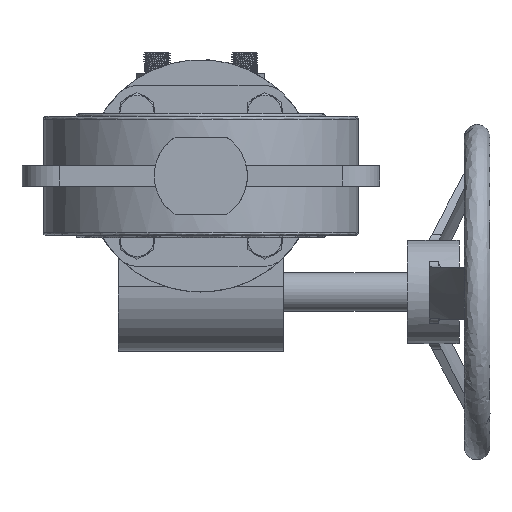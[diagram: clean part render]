
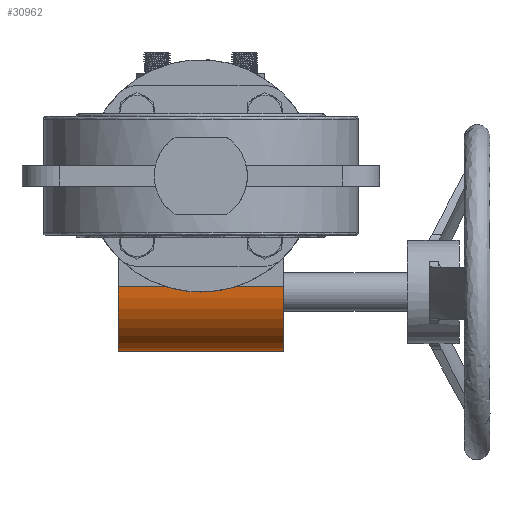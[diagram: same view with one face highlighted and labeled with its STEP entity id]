
A CAD part, front view. The second image highlights one B-rep face of the part: STEP entity #30962.
In plain terms, the highlighted cylindrical face has radius 25 mm (diameter 50 mm), a partial arc.
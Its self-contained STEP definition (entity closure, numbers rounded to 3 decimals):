
#473 = AXIS2_PLACEMENT_3D ( 'NONE', #40761, #11090, #3340 ) ;
#1107 = EDGE_CURVE ( 'NONE', #17296, #9995, #41872, .T. ) ;
#2063 = ORIENTED_EDGE ( 'NONE', *, *, #36594, .T. ) ;
#2839 = LINE ( 'NONE', #10339, #20544 ) ;
#3340 = DIRECTION ( 'NONE',  ( 0., 0., 1. ) ) ;
#3770 = EDGE_CURVE ( 'NONE', #16274, #29406, #14925, .T. ) ;
#4083 = DIRECTION ( 'NONE',  ( -1., 0., 0. ) ) ;
#4894 = DIRECTION ( 'NONE',  ( 1., 0., 0. ) ) ;
#7080 = CARTESIAN_POINT ( 'NONE',  ( -32., 183., -43. ) ) ;
#7294 = VECTOR ( 'NONE', #4894, 1000. ) ;
#7642 = DIRECTION ( 'NONE',  ( -1., 0., 0. ) ) ;
#7876 = CARTESIAN_POINT ( 'NONE',  ( 0., 183., -43. ) ) ;
#9995 = VERTEX_POINT ( 'NONE', #45353 ) ;
#10339 = CARTESIAN_POINT ( 'NONE',  ( 0., 158., -43. ) ) ;
#10661 = CARTESIAN_POINT ( 'NONE',  ( 0., 158., -43. ) ) ;
#10799 = FACE_OUTER_BOUND ( 'NONE', #16715, .T. ) ;
#11090 = DIRECTION ( 'NONE',  ( -1., 0., 0. ) ) ;
#12399 = CARTESIAN_POINT ( 'NONE',  ( 32., 183., -68. ) ) ;
#12869 = ORIENTED_EDGE ( 'NONE', *, *, #1107, .T. ) ;
#13513 = CYLINDRICAL_SURFACE ( 'NONE', #23835, 25. ) ;
#14066 = CARTESIAN_POINT ( 'NONE',  ( -32., 183., -68. ) ) ;
#14709 = DIRECTION ( 'NONE',  ( 0., 0., 1. ) ) ;
#14925 = LINE ( 'NONE', #29866, #18995 ) ;
#15497 = ORIENTED_EDGE ( 'NONE', *, *, #18931, .T. ) ;
#16274 = VERTEX_POINT ( 'NONE', #28183 ) ;
#16715 = EDGE_LOOP ( 'NONE', ( #2063, #43886, #12869, #40834, #41357, #15497 ) ) ;
#17296 = VERTEX_POINT ( 'NONE', #12399 ) ;
#17939 = CARTESIAN_POINT ( 'NONE',  ( 13.266, 158., -43. ) ) ;
#18651 = VERTEX_POINT ( 'NONE', #14066 ) ;
#18931 = EDGE_CURVE ( 'NONE', #16274, #30140, #2839, .T. ) ;
#18995 = VECTOR ( 'NONE', #22545, 1000. ) ;
#19882 = AXIS2_PLACEMENT_3D ( 'NONE', #7080, #44295, #39898 ) ;
#20544 = VECTOR ( 'NONE', #28712, 1000. ) ;
#20765 = CARTESIAN_POINT ( 'NONE',  ( 0., 183., -68. ) ) ;
#22545 = DIRECTION ( 'NONE',  ( 1., 0., 0. ) ) ;
#23323 = EDGE_CURVE ( 'NONE', #18651, #17296, #35190, .T. ) ;
#23835 = AXIS2_PLACEMENT_3D ( 'NONE', #7876, #7642, #14709 ) ;
#28183 = CARTESIAN_POINT ( 'NONE',  ( -13.266, 158., -43. ) ) ;
#28712 = DIRECTION ( 'NONE',  ( -1., 0., 0. ) ) ;
#29406 = VERTEX_POINT ( 'NONE', #17939 ) ;
#29866 = CARTESIAN_POINT ( 'NONE',  ( 0., 158., -43. ) ) ;
#30140 = VERTEX_POINT ( 'NONE', #30510 ) ;
#30510 = CARTESIAN_POINT ( 'NONE',  ( -32., 158., -43. ) ) ;
#30962 = ADVANCED_FACE ( 'NONE', ( #10799 ), #13513, .T. ) ;
#31956 = VECTOR ( 'NONE', #4083, 1000. ) ;
#35190 = LINE ( 'NONE', #20765, #7294 ) ;
#36594 = EDGE_CURVE ( 'NONE', #30140, #18651, #40999, .T. ) ;
#39898 = DIRECTION ( 'NONE',  ( 0., 0., 1. ) ) ;
#40761 = CARTESIAN_POINT ( 'NONE',  ( 32., 183., -43. ) ) ;
#40834 = ORIENTED_EDGE ( 'NONE', *, *, #45153, .T. ) ;
#40999 = CIRCLE ( 'NONE', #19882, 25. ) ;
#41357 = ORIENTED_EDGE ( 'NONE', *, *, #3770, .F. ) ;
#41872 = CIRCLE ( 'NONE', #473, 25. ) ;
#43886 = ORIENTED_EDGE ( 'NONE', *, *, #23323, .T. ) ;
#44295 = DIRECTION ( 'NONE',  ( 1., 0., 0. ) ) ;
#45153 = EDGE_CURVE ( 'NONE', #9995, #29406, #47622, .T. ) ;
#45353 = CARTESIAN_POINT ( 'NONE',  ( 32., 158., -43. ) ) ;
#47622 = LINE ( 'NONE', #10661, #31956 ) ;
